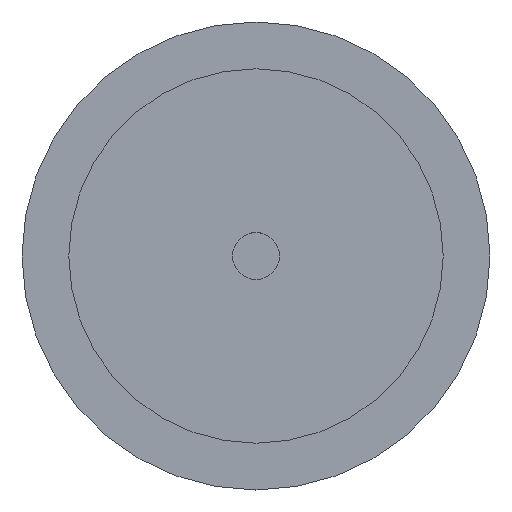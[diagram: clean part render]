
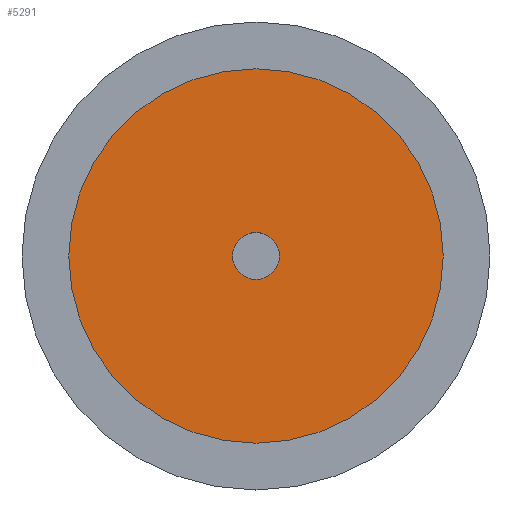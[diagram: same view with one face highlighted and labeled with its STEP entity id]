
A CAD part, left-side view. The second image highlights one B-rep face of the part: STEP entity #5291.
In plain terms, the highlighted planar face has unit normal (-1, 0, 0).
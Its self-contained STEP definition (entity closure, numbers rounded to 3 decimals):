
#951 = CARTESIAN_POINT ( 'NONE',  ( -7., 0., 1.5 ) ) ;
#952 = DIRECTION ( 'NONE',  ( 0., 0., -1. ) ) ;
#953 = DIRECTION ( 'NONE',  ( 1., 0., 0. ) ) ;
#954 = CARTESIAN_POINT ( 'NONE',  ( -7., 0., 0. ) ) ;
#955 = AXIS2_PLACEMENT_3D ( 'NONE', #954, #953, #952 ) ;
#956 = CIRCLE ( 'NONE', #955, 1.5 ) ;
#1267 = CARTESIAN_POINT ( 'NONE',  ( -7., 0., -1.5 ) ) ;
#1552 = CARTESIAN_POINT ( 'NONE',  ( -7., 0., 12. ) ) ;
#1553 = CARTESIAN_POINT ( 'NONE',  ( -7., 0., -12. ) ) ;
#1554 = DIRECTION ( 'NONE',  ( 0., 0., -1. ) ) ;
#1555 = DIRECTION ( 'NONE',  ( 1., 0., 0. ) ) ;
#1556 = AXIS2_PLACEMENT_3D ( 'NONE', #1563, #1555, #1554 ) ;
#1557 = CIRCLE ( 'NONE', #1556, 12. ) ;
#1563 = CARTESIAN_POINT ( 'NONE',  ( -7., 0., 0. ) ) ;
#1601 = DIRECTION ( 'NONE',  ( 0., 0., -1. ) ) ;
#1602 = DIRECTION ( 'NONE',  ( 1., 0., 0. ) ) ;
#1603 = CARTESIAN_POINT ( 'NONE',  ( -7., 0., 0. ) ) ;
#1604 = AXIS2_PLACEMENT_3D ( 'NONE', #1603, #1602, #1601 ) ;
#1605 = CIRCLE ( 'NONE', #1604, 1.5 ) ;
#1606 = DIRECTION ( 'NONE',  ( 0., 0., -1. ) ) ;
#1607 = DIRECTION ( 'NONE',  ( 1., 0., 0. ) ) ;
#1608 = CARTESIAN_POINT ( 'NONE',  ( -7., 0., 0. ) ) ;
#1609 = AXIS2_PLACEMENT_3D ( 'NONE', #1608, #1607, #1606 ) ;
#1610 = CIRCLE ( 'NONE', #1609, 12. ) ;
#1706 = DIRECTION ( 'NONE',  ( 0., 0., -1. ) ) ;
#1707 = DIRECTION ( 'NONE',  ( 1., 0., 0. ) ) ;
#1708 = CARTESIAN_POINT ( 'NONE',  ( -7., 0., 0. ) ) ;
#1709 = AXIS2_PLACEMENT_3D ( 'NONE', #1708, #1707, #1706 ) ;
#1710 = PLANE ( 'NONE',  #1709 ) ;
#1711 = FACE_BOUND ( 'NONE', #5250, .T. ) ;
#1712 = FACE_OUTER_BOUND ( 'NONE', #5292, .T. ) ;
#4721 = EDGE_CURVE ( 'NONE', #4723, #4841, #956, .T. ) ;
#4723 = VERTEX_POINT ( 'NONE', #951 ) ;
#4841 = VERTEX_POINT ( 'NONE', #1267 ) ;
#5238 = EDGE_CURVE ( 'NONE', #5239, #5240, #1557, .T. ) ;
#5239 = VERTEX_POINT ( 'NONE', #1553 ) ;
#5240 = VERTEX_POINT ( 'NONE', #1552 ) ;
#5247 = ORIENTED_EDGE ( 'NONE', *, *, #5238, .F. ) ;
#5248 = ORIENTED_EDGE ( 'NONE', *, *, #5249, .F. ) ;
#5249 = EDGE_CURVE ( 'NONE', #5240, #5239, #1610, .T. ) ;
#5250 = EDGE_LOOP ( 'NONE', ( #5251, #5252 ) ) ;
#5251 = ORIENTED_EDGE ( 'NONE', *, *, #4721, .T. ) ;
#5252 = ORIENTED_EDGE ( 'NONE', *, *, #5254, .T. ) ;
#5254 = EDGE_CURVE ( 'NONE', #4841, #4723, #1605, .T. ) ;
#5291 = ADVANCED_FACE ( 'NONE', ( #1712, #1711 ), #1710, .F. ) ;
#5292 = EDGE_LOOP ( 'NONE', ( #5247, #5248 ) ) ;
